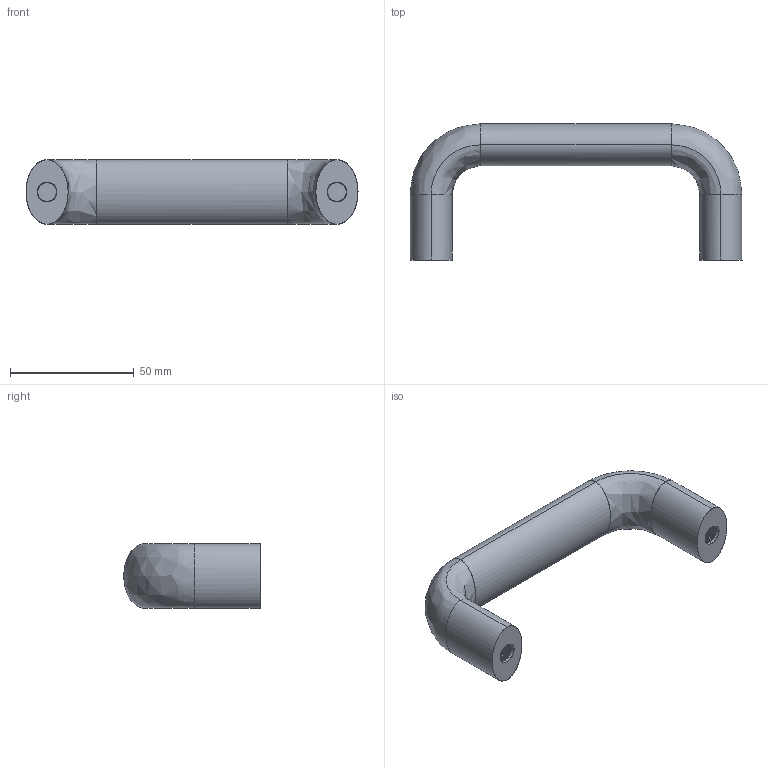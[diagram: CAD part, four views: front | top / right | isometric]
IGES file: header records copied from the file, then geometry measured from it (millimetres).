
Start section: SolidWorks IGES file using analytic representation for surfaces
Global section: file name: C:\Documents and Settings\Deathkiller\桌面\3D IGES\U型把手\MS-740\26\p=117.IGS; native system: SolidWorks 2006 by SolidWorks Corporation; preprocessor: SolidWorks 2006 by SolidWorks Corporation; author: Deathkiller; date: 080624.172354; units: millimetre
Bounding box: 134 x 54.98 x 26 mm (x, y, z)
Surface area: 14582.1 mm2 (no closed solid volume)
Topology: 0 solids, 0 shells, 70 faces, 1628 edges, 1628 vertices
Faces by surface type: revolution 48, bspline 22
